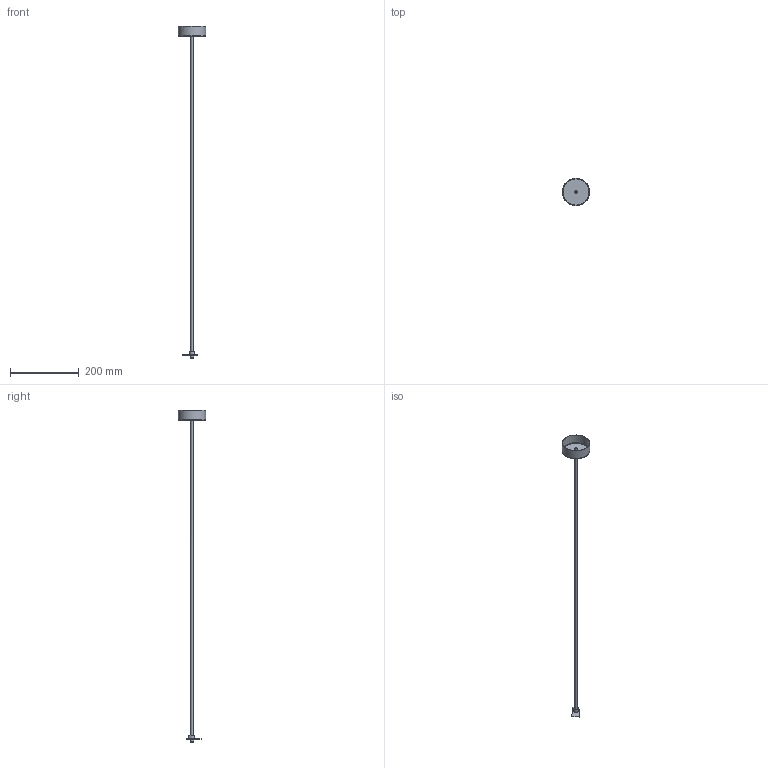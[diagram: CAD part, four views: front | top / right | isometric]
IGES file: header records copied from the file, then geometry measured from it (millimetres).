
Start section: SolidWorks IGES file using NURBS representation for surfaces
Global section: file name: Z:\Modele 3D_WWW\_KOLEKCJE WWW\PROFILE SYSTEM\PROFILE-POWER-SUPPLY-KIT-9237-9238\PROFILE-POWER-SUPPLY-KIT-9237-9238.IGS; native system: SolidWorks 2021; preprocessor: SolidWorks 2021; author: gabriela.tworek; date: 220214.125317; units: millimetre
Bounding box: 79.96 x 80 x 968.53 mm (x, y, z)
Surface area: 45303 mm2 (no closed solid volume)
Topology: 0 solids, 0 shells, 36 faces, 177 edges, 168 vertices
Faces by surface type: bspline 36
